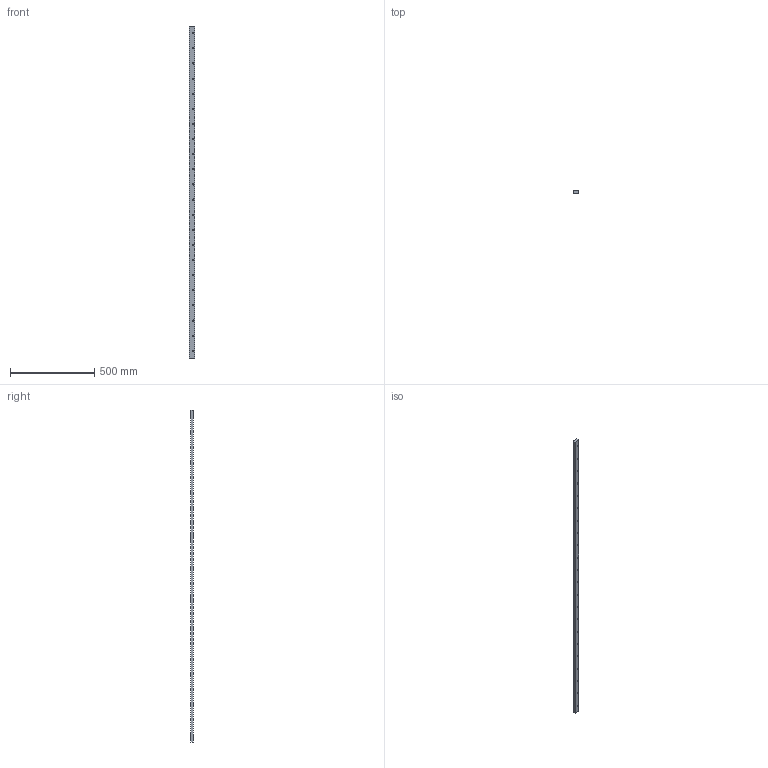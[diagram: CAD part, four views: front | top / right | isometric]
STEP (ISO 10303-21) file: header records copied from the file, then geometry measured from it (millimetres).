
FILE_DESCRIPTION(('STEP AP203'),'1');
FILE_NAME('track_ft3216l1976p2b.stp','2022-07-04T01:45:42',('TraceParts'),('TraceParts S.A.'),'Spatial InterOp 3D',' ',' ');
FILE_SCHEMA(('CONFIG_CONTROL_DESIGN'));
Length unit declared in the file: millimetre
Products named in the file (1): 1
Bounding box: 32 x 16.4 x 1976 mm (x, y, z)
Volume: 1014232.4 mm3; surface area: 197446.8 mm2
Topology: 1 solids, 1 shells, 120 faces, 288 edges, 192 vertices
Faces by surface type: cylinder 88, plane 32
Entity records: 3720 total; most frequent: DIRECTION 706, CARTESIAN_POINT 601, ORIENTED_EDGE 576, AXIS2_PLACEMENT_3D 297, EDGE_CURVE 288, VERTEX_POINT 192, EDGE_LOOP 186, CIRCLE 176
